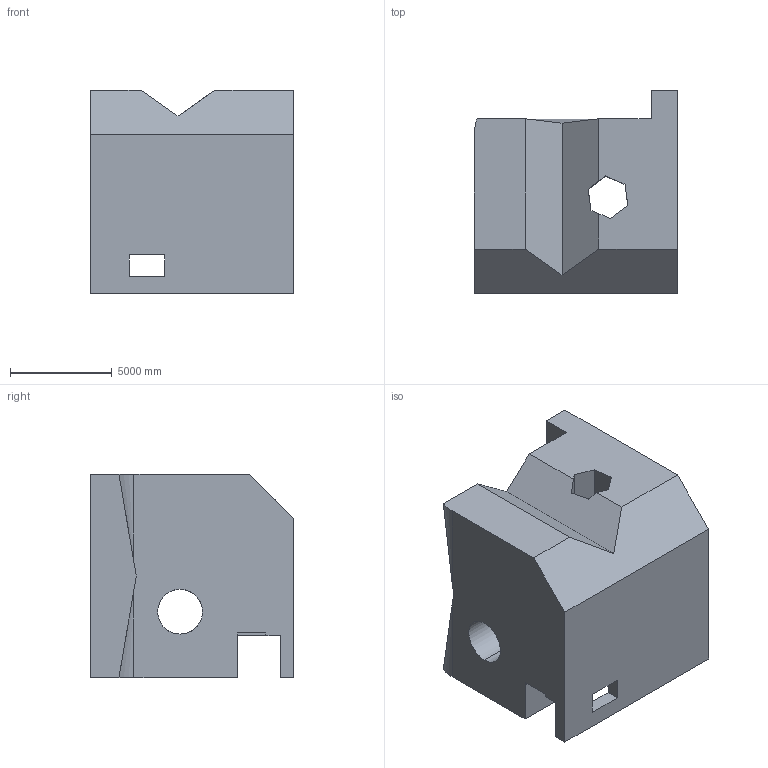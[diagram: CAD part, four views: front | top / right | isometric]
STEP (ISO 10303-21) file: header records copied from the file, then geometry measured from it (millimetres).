
FILE_DESCRIPTION (( 'STEP AP203' ), '1' );
FILE_NAME ('959.STEP', '2022-07-29T14:41:53', ( 'user' ), ( '' ), 'SwSTEP 2.0', 'SolidWorks 2021', '' );
FILE_SCHEMA (( 'CONFIG_CONTROL_DESIGN' ));
Length unit declared in the file: centimetre
Products named in the file (1): 959
Bounding box: 10000 x 10000 x 10000 mm (x, y, z)
Volume: 671515213791.8 mm3; surface area: 741958080.5 mm2
Topology: 1 solids, 1 shells, 51 faces, 156 edges, 104 vertices
Faces by surface type: plane 45, cylinder 6
Entity records: 1813 total; most frequent: CARTESIAN_POINT 369, ORIENTED_EDGE 312, DIRECTION 247, EDGE_CURVE 156, VECTOR 131, LINE 131, VERTEX_POINT 104, AXIS2_PLACEMENT_3D 58
